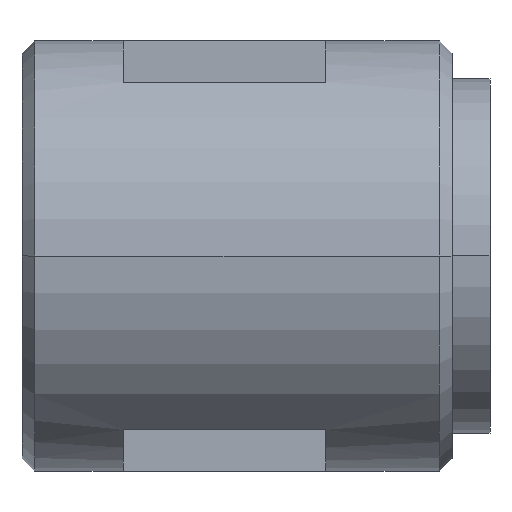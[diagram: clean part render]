
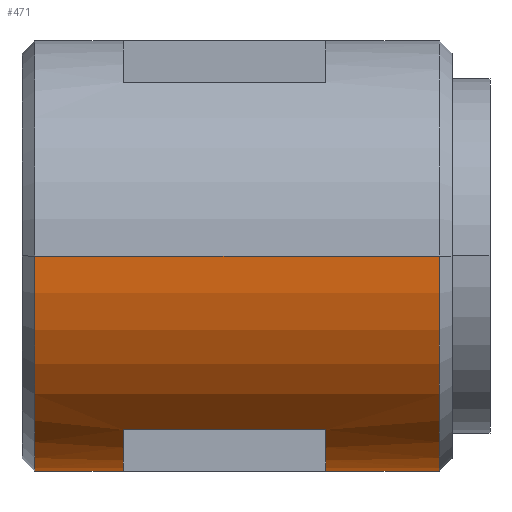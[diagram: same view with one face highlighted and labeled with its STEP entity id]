
A CAD part, left-side view. The second image highlights one B-rep face of the part: STEP entity #471.
In plain terms, the highlighted cylindrical face has radius 8.5 mm (diameter 17 mm), a partial arc.
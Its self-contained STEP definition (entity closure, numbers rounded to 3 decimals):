
#273=CARTESIAN_POINT('',(-8.5,-1.25,0.));
#274=VERTEX_POINT('',#273);
#290=CARTESIAN_POINT('',(8.5,-1.25,0.0));
#291=VERTEX_POINT('',#290);
#298=CARTESIAN_POINT('',(0.0,-1.25,0.0));
#299=DIRECTION('',(0.0,1.0,0.0));
#300=DIRECTION('',(-1.0,0.0,0.0));
#301=AXIS2_PLACEMENT_3D('',#298,#299,#300);
#302=CIRCLE('',#301,8.5);
#303=EDGE_CURVE('',#291,#274,#302,.T.);
#350=CARTESIAN_POINT('',(0.0,-17.75,0.0));
#351=DIRECTION('',(0.0,1.0,0.0));
#352=DIRECTION('',(1.0,0.0,0.0));
#353=AXIS2_PLACEMENT_3D('',#350,#351,#352);
#354=CYLINDRICAL_SURFACE('',#353,8.5);
#355=CARTESIAN_POINT('',(8.5,-17.25,0.));
#356=VERTEX_POINT('',#355);
#357=CARTESIAN_POINT('',(8.5,-15.25,0.));
#358=VERTEX_POINT('',#357);
#359=CARTESIAN_POINT('',(8.5,-17.25,0.));
#360=DIRECTION('',(0.0,1.0,0.0));
#361=VECTOR('',#360,2.);
#362=LINE('',#359,#361);
#363=EDGE_CURVE('',#356,#358,#362,.T.);
#364=ORIENTED_EDGE('',*,*,#363,.F.);
#365=CARTESIAN_POINT('',(-8.5,-17.25,0.0));
#366=VERTEX_POINT('',#365);
#367=CARTESIAN_POINT('',(0.0,-17.25,0.0));
#368=DIRECTION('',(0.0,-1.0,0.0));
#369=DIRECTION('',(1.0,0.0,0.0));
#370=AXIS2_PLACEMENT_3D('',#367,#368,#369);
#371=CIRCLE('',#370,8.5);
#372=EDGE_CURVE('',#366,#356,#371,.T.);
#373=ORIENTED_EDGE('',*,*,#372,.F.);
#374=CARTESIAN_POINT('',(-8.5,-1.25,0.));
#375=DIRECTION('',(0.0,-1.0,0.0));
#376=VECTOR('',#375,16.);
#377=LINE('',#374,#376);
#378=EDGE_CURVE('',#274,#366,#377,.T.);
#379=ORIENTED_EDGE('',*,*,#378,.F.);
#380=ORIENTED_EDGE('',*,*,#303,.F.);
#381=CARTESIAN_POINT('',(8.5,-2.25,0.));
#382=VERTEX_POINT('',#381);
#383=CARTESIAN_POINT('',(8.5,-2.25,0.));
#384=DIRECTION('',(0.0,1.0,0.0));
#385=VECTOR('',#384,1.0);
#386=LINE('',#383,#385);
#387=EDGE_CURVE('',#382,#291,#386,.T.);
#388=ORIENTED_EDGE('',*,*,#387,.F.);
#389=CARTESIAN_POINT('',(6.199,-8.75,-5.816));
#390=VERTEX_POINT('',#389);
#391=CARTESIAN_POINT('',(8.5,-2.25,0.));
#392=CARTESIAN_POINT('',(8.5,-2.25,-0.216));
#393=CARTESIAN_POINT('',(8.492,-2.264,-0.434));
#394=CARTESIAN_POINT('',(8.351,-2.494,-2.271));
#395=CARTESIAN_POINT('',(7.724,-3.467,-3.714));
#396=CARTESIAN_POINT('',(6.651,-5.898,-5.365));
#397=CARTESIAN_POINT('',(6.199,-7.298,-5.816));
#398=CARTESIAN_POINT('',(6.199,-8.75,-5.816));
#399=B_SPLINE_CURVE_WITH_KNOTS('',3,(#391,#392,#393,#394,#395,#396,#397,#398),.UNSPECIFIED.,.F.,.U.,(4,2,2,4),(25.819,26.412,30.87,34.422),.UNSPECIFIED.);
#400=EDGE_CURVE('',#390,#382,#399,.F.);
#401=ORIENTED_EDGE('',*,*,#400,.F.);
#402=CARTESIAN_POINT('',(6.199,-8.75,-5.816));
#403=CARTESIAN_POINT('',(6.199,-9.185,-5.816));
#404=CARTESIAN_POINT('',(6.237,-9.621,-5.776));
#405=CARTESIAN_POINT('',(6.416,-10.717,-5.577));
#406=CARTESIAN_POINT('',(6.604,-11.349,-5.363));
#407=CARTESIAN_POINT('',(7.161,-12.843,-4.615));
#408=CARTESIAN_POINT('',(7.566,-13.619,-3.969));
#409=CARTESIAN_POINT('',(8.252,-14.86,-2.262));
#410=CARTESIAN_POINT('',(8.5,-15.25,-1.135));
#411=CARTESIAN_POINT('',(8.5,-15.25,0.));
#412=B_SPLINE_CURVE_WITH_KNOTS('',3,(#402,#403,#404,#405,#406,#407,#408,#409,#410,#411),.UNSPECIFIED.,.F.,.U.,(4,2,2,2,4),(0.0,1.065,2.769,5.495,8.606),.UNSPECIFIED.);
#413=EDGE_CURVE('',#358,#390,#412,.F.);
#414=ORIENTED_EDGE('',*,*,#413,.F.);
#415=EDGE_LOOP('',(#364,#373,#379,#380,#388,#401,#414));
#416=FACE_OUTER_BOUND('',#415,.T.);
#417=CARTESIAN_POINT('',(5.,-4.75,-6.874));
#418=VERTEX_POINT('',#417);
#419=CARTESIAN_POINT('',(0.0,-4.75,-8.5));
#420=VERTEX_POINT('',#419);
#421=CARTESIAN_POINT('',(0.0,-4.75,0.0));
#422=DIRECTION('',(0.0,1.0,0.0));
#423=DIRECTION('',(1.0,0.0,0.0));
#424=AXIS2_PLACEMENT_3D('',#421,#422,#423);
#425=CIRCLE('',#424,8.5);
#426=EDGE_CURVE('',#418,#420,#425,.T.);
#427=ORIENTED_EDGE('',*,*,#426,.T.);
#428=CARTESIAN_POINT('',(-5.,-4.75,-6.874));
#429=VERTEX_POINT('',#428);
#430=CARTESIAN_POINT('',(0.0,-4.75,0.0));
#431=DIRECTION('',(0.0,1.0,0.0));
#432=DIRECTION('',(1.0,0.0,0.0));
#433=AXIS2_PLACEMENT_3D('',#430,#431,#432);
#434=CIRCLE('',#433,8.5);
#435=EDGE_CURVE('',#420,#429,#434,.T.);
#436=ORIENTED_EDGE('',*,*,#435,.T.);
#437=CARTESIAN_POINT('',(-5.,-12.75,-6.874));
#438=VERTEX_POINT('',#437);
#439=CARTESIAN_POINT('',(-5.,-4.75,-6.874));
#440=DIRECTION('',(0.0,-1.0,0.0));
#441=VECTOR('',#440,8.0);
#442=LINE('',#439,#441);
#443=EDGE_CURVE('',#429,#438,#442,.T.);
#444=ORIENTED_EDGE('',*,*,#443,.T.);
#445=CARTESIAN_POINT('',(0.0,-12.75,-8.5));
#446=VERTEX_POINT('',#445);
#447=CARTESIAN_POINT('',(0.0,-12.75,0.0));
#448=DIRECTION('',(0.0,-1.0,0.0));
#449=DIRECTION('',(1.0,0.0,0.0));
#450=AXIS2_PLACEMENT_3D('',#447,#448,#449);
#451=CIRCLE('',#450,8.5);
#452=EDGE_CURVE('',#438,#446,#451,.T.);
#453=ORIENTED_EDGE('',*,*,#452,.T.);
#454=CARTESIAN_POINT('',(5.0,-12.75,-6.874));
#455=VERTEX_POINT('',#454);
#456=CARTESIAN_POINT('',(0.0,-12.75,0.0));
#457=DIRECTION('',(0.0,-1.0,0.0));
#458=DIRECTION('',(1.0,0.0,0.0));
#459=AXIS2_PLACEMENT_3D('',#456,#457,#458);
#460=CIRCLE('',#459,8.5);
#461=EDGE_CURVE('',#446,#455,#460,.T.);
#462=ORIENTED_EDGE('',*,*,#461,.T.);
#463=CARTESIAN_POINT('',(5.0,-12.75,-6.874));
#464=DIRECTION('',(0.0,1.0,0.0));
#465=VECTOR('',#464,8.);
#466=LINE('',#463,#465);
#467=EDGE_CURVE('',#455,#418,#466,.T.);
#468=ORIENTED_EDGE('',*,*,#467,.T.);
#469=EDGE_LOOP('',(#427,#436,#444,#453,#462,#468));
#470=FACE_BOUND('',#469,.T.);
#471=ADVANCED_FACE('',(#416,#470),#354,.T.);
